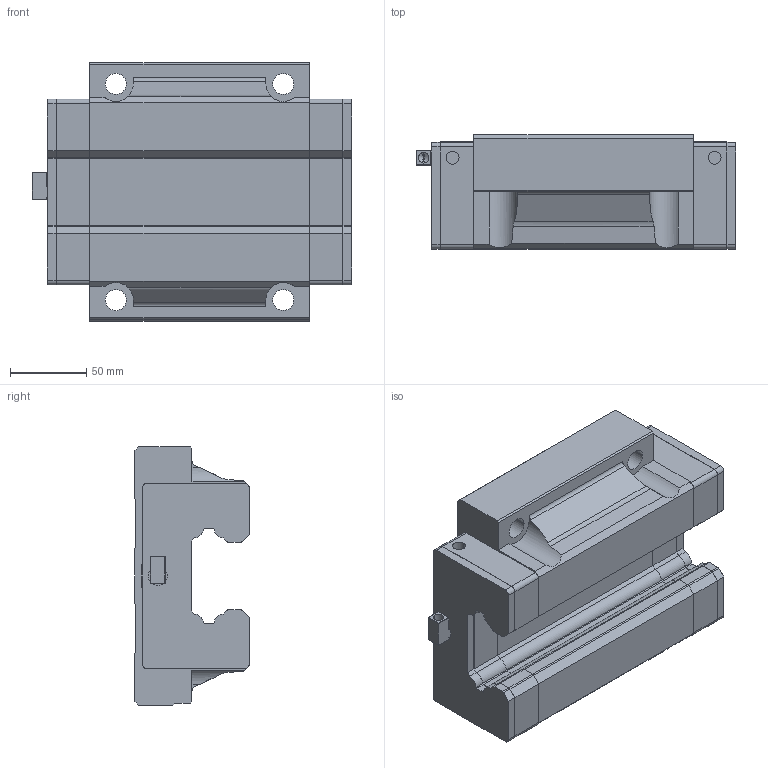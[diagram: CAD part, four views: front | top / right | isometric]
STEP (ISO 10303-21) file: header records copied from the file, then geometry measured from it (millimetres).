
FILE_DESCRIPTION (( 'STEP AP203' ), '1' );
FILE_NAME ('SGW65CA.STEP', '2025-06-27T06:33:20', ( 'Owner' ), ( 'Organization' ), 'SwSTEP 2.0', 'SolidWorks 2020', '' );
FILE_SCHEMA (( 'CONFIG_CONTROL_DESIGN' ));
Length unit declared in the file: millimetre
Products named in the file (1): SGW65CA
Bounding box: 210.2 x 75 x 170 mm (x, y, z)
Volume: 1664934.1 mm3; surface area: 187973.1 mm2
Topology: 7 solids, 7 shells, 406 faces, 1024 edges, 645 vertices
Faces by surface type: plane 266, cylinder 112, cone 28
Entity records: 12157 total; most frequent: CARTESIAN_POINT 2202, DIRECTION 2058, ORIENTED_EDGE 2044, EDGE_CURVE 1022, LINE 756, VECTOR 756, AXIS2_PLACEMENT_3D 651, VERTEX_POINT 645
